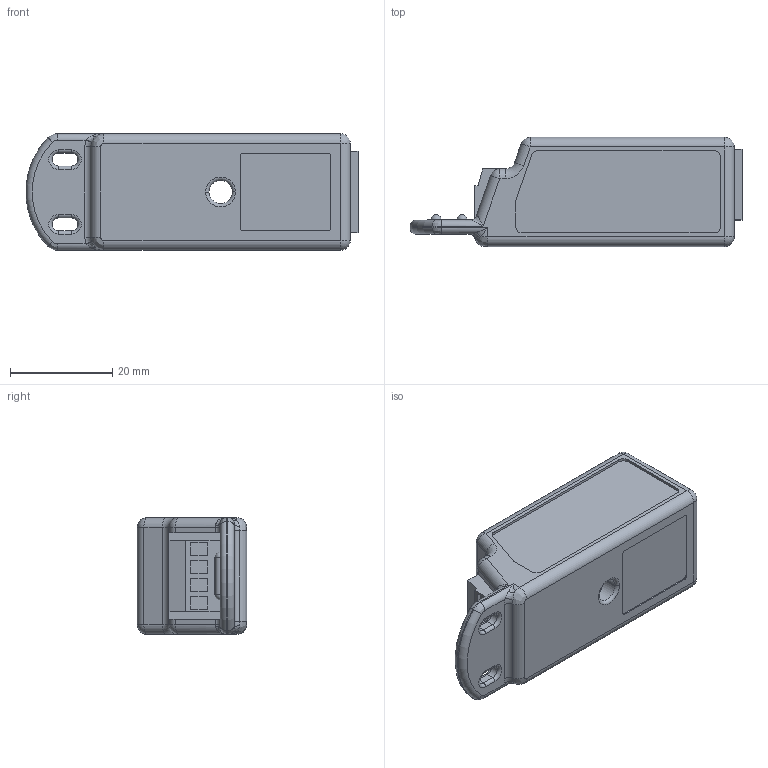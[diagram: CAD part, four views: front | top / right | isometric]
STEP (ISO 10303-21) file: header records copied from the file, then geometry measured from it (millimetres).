
FILE_DESCRIPTION((''),'2;1');
FILE_NAME('CU_NI-9944_9945','2015-05-20T',('dkendric'),(''),'PRO/ENGINEER BY PARAMETRIC TECHNOLOGY CORPORATION, 2014000','PRO/ENGINEER BY PARAMETRIC TECHNOLOGY CORPORATION, 2014000','');
FILE_SCHEMA(('CONFIG_CONTROL_DESIGN'));
Length unit declared in the file: inch
Products named in the file (1): CU_NI-9944_9945
Bounding box: 65.05 x 21.41 x 22.86 mm (x, y, z)
Volume: 22099.9 mm3; surface area: 6599 mm2
Topology: 1 solids, 1 shells, 193 faces, 460 edges, 280 vertices
Faces by surface type: plane 79, cylinder 66, torus 22, bspline 14, sphere 12
Entity records: 5922 total; most frequent: CARTESIAN_POINT 1373, DIRECTION 978, ORIENTED_EDGE 912, EDGE_CURVE 456, AXIS2_PLACEMENT_3D 359, VERTEX_POINT 280, VECTOR 260, LINE 260
